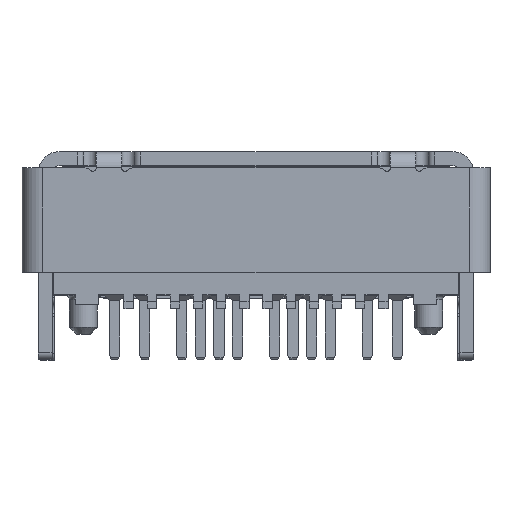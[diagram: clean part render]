
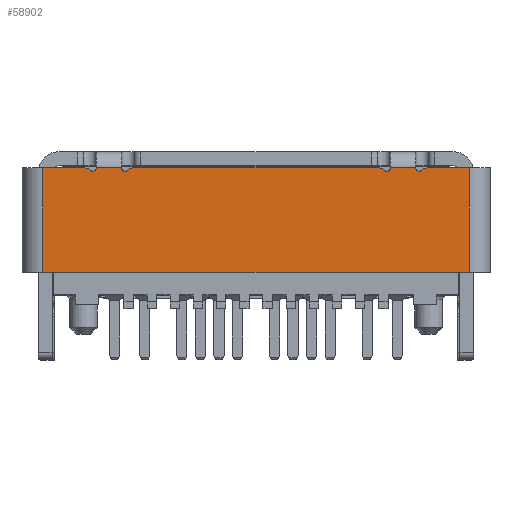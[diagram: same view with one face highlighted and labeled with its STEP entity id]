
A CAD part, top view. The second image highlights one B-rep face of the part: STEP entity #58902.
In plain terms, the highlighted planar face has unit normal (0, 0, 1).
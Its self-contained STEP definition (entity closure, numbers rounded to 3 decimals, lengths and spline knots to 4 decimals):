
#18443=DIRECTION('',(0.,-1.,0.));
#18444=VECTOR('',#18443,2.25);
#18445=CARTESIAN_POINT('',(-4.6,1.23,3.525));
#18446=LINE('',#18445,#18444);
#18451=DIRECTION('',(-1.,0.,0.));
#18452=VECTOR('',#18451,0.9073);
#18453=CARTESIAN_POINT('',(-3.6927,1.23,3.525));
#18454=LINE('',#18453,#18452);
#18455=CARTESIAN_POINT('',(-3.6927,1.08,3.525));
#18456=DIRECTION('',(0.,0.,1.));
#18457=DIRECTION('',(0.745,0.667,0.));
#18458=AXIS2_PLACEMENT_3D('',#18455,#18456,#18457);
#18460=CARTESIAN_POINT('',(-3.525,1.23,3.525));
#18461=DIRECTION('',(0.,0.,-1.));
#18462=DIRECTION('',(1.,0.,0.));
#18463=AXIS2_PLACEMENT_3D('',#18460,#18461,#18462);
#18465=CARTESIAN_POINT('',(-2.825,1.23,3.525));
#18466=DIRECTION('',(0.,0.,-1.));
#18467=DIRECTION('',(0.745,-0.667,0.));
#18468=AXIS2_PLACEMENT_3D('',#18465,#18466,#18467);
#18470=CARTESIAN_POINT('',(-2.6573,1.08,3.525));
#18471=DIRECTION('',(0.,0.,1.));
#18472=DIRECTION('',(0.,1.,0.));
#18473=AXIS2_PLACEMENT_3D('',#18470,#18471,#18472);
#18475=CARTESIAN_POINT('',(2.6573,1.08,3.525));
#18476=DIRECTION('',(0.,0.,1.));
#18477=DIRECTION('',(0.745,0.667,0.));
#18478=AXIS2_PLACEMENT_3D('',#18475,#18476,#18477);
#18480=CARTESIAN_POINT('',(2.825,1.23,3.525));
#18481=DIRECTION('',(0.,0.,-1.));
#18482=DIRECTION('',(1.,0.,0.));
#18483=AXIS2_PLACEMENT_3D('',#18480,#18481,#18482);
#18485=CARTESIAN_POINT('',(3.525,1.23,3.525));
#18486=DIRECTION('',(0.,0.,-1.));
#18487=DIRECTION('',(0.745,-0.667,0.));
#18488=AXIS2_PLACEMENT_3D('',#18485,#18486,#18487);
#18490=CARTESIAN_POINT('',(3.6927,1.08,3.525));
#18491=DIRECTION('',(0.,0.,1.));
#18492=DIRECTION('',(0.,1.,0.));
#18493=AXIS2_PLACEMENT_3D('',#18490,#18491,#18492);
#18495=DIRECTION('',(0.,1.,0.));
#18496=VECTOR('',#18495,2.25);
#18497=CARTESIAN_POINT('',(4.6,-1.02,3.525));
#18498=LINE('',#18497,#18496);
#18535=DIRECTION('',(-1.,0.,0.));
#18536=VECTOR('',#18535,9.2);
#18537=CARTESIAN_POINT('',(4.6,-1.02,3.525));
#18538=LINE('',#18537,#18536);
#18578=DIRECTION('',(1.,0.,0.));
#18579=VECTOR('',#18578,0.9073);
#18580=CARTESIAN_POINT('',(3.6927,1.23,3.525));
#18581=LINE('',#18580,#18579);
#19001=DIRECTION('',(1.,0.,0.));
#19002=VECTOR('',#19001,5.3146);
#19003=CARTESIAN_POINT('',(-2.6573,1.23,3.525));
#19004=LINE('',#19003,#19002);
#19017=DIRECTION('',(-1.,0.,0.));
#19018=VECTOR('',#19017,0.55);
#19019=CARTESIAN_POINT('',(-2.9,1.23,3.525));
#19020=LINE('',#19019,#19018);
#19057=DIRECTION('',(-1.,0.,0.));
#19058=VECTOR('',#19057,0.55);
#19059=CARTESIAN_POINT('',(3.45,1.23,3.525));
#19060=LINE('',#19059,#19058);
#21606=CARTESIAN_POINT('',(-3.45,1.23,3.525));
#21608=VERTEX_POINT('',#21606);
#21612=CARTESIAN_POINT('',(-3.5809,1.18,3.525));
#21613=VERTEX_POINT('',#21612);
#21647=CARTESIAN_POINT('',(-4.6,1.23,3.525));
#21649=VERTEX_POINT('',#21647);
#21656=CARTESIAN_POINT('',(-3.6927,1.23,3.525));
#21657=VERTEX_POINT('',#21656);
#21658=CARTESIAN_POINT('',(-4.6,-1.02,3.525));
#21659=VERTEX_POINT('',#21658);
#21662=CARTESIAN_POINT('',(4.6,-1.02,3.525));
#21663=CARTESIAN_POINT('',(4.6,1.23,3.525));
#21664=VERTEX_POINT('',#21662);
#21665=VERTEX_POINT('',#21663);
#21666=CARTESIAN_POINT('',(-2.9,1.23,3.525));
#21667=VERTEX_POINT('',#21666);
#21668=CARTESIAN_POINT('',(-2.7691,1.18,3.525));
#21669=VERTEX_POINT('',#21668);
#21670=CARTESIAN_POINT('',(-2.6573,1.23,3.525));
#21671=VERTEX_POINT('',#21670);
#21672=CARTESIAN_POINT('',(2.6573,1.23,3.525));
#21673=VERTEX_POINT('',#21672);
#21674=CARTESIAN_POINT('',(2.7691,1.18,3.525));
#21675=VERTEX_POINT('',#21674);
#21676=CARTESIAN_POINT('',(2.9,1.23,3.525));
#21677=VERTEX_POINT('',#21676);
#21678=CARTESIAN_POINT('',(3.45,1.23,3.525));
#21679=VERTEX_POINT('',#21678);
#21680=CARTESIAN_POINT('',(3.5809,1.18,3.525));
#21681=VERTEX_POINT('',#21680);
#21682=CARTESIAN_POINT('',(3.6927,1.23,3.525));
#21683=VERTEX_POINT('',#21682);
#58866=CARTESIAN_POINT('',(0.,0.105,3.525));
#58867=DIRECTION('',(0.,0.,1.));
#58868=DIRECTION('',(1.,0.,0.));
#58869=AXIS2_PLACEMENT_3D('',#58866,#58867,#58868);
#58870=PLANE('',#58869);
#58872=ORIENTED_EDGE('',*,*,#58871,.F.);
#58874=ORIENTED_EDGE('',*,*,#58873,.T.);
#58875=ORIENTED_EDGE('',*,*,#58850,.F.);
#58876=ORIENTED_EDGE('',*,*,#58832,.F.);
#58878=ORIENTED_EDGE('',*,*,#58877,.F.);
#58880=ORIENTED_EDGE('',*,*,#58879,.F.);
#58882=ORIENTED_EDGE('',*,*,#58881,.F.);
#58884=ORIENTED_EDGE('',*,*,#58883,.F.);
#58886=ORIENTED_EDGE('',*,*,#58885,.F.);
#58888=ORIENTED_EDGE('',*,*,#58887,.T.);
#58890=ORIENTED_EDGE('',*,*,#58889,.F.);
#58891=ORIENTED_EDGE('',*,*,#58732,.F.);
#58893=ORIENTED_EDGE('',*,*,#58892,.F.);
#58895=ORIENTED_EDGE('',*,*,#58894,.F.);
#58897=ORIENTED_EDGE('',*,*,#58896,.F.);
#58899=ORIENTED_EDGE('',*,*,#58898,.T.);
#58900=EDGE_LOOP('',(#58872,#58874,#58875,#58876,#58878,#58880,#58882,#58884,
#58886,#58888,#58890,#58891,#58893,#58895,#58897,#58899));
#58901=FACE_OUTER_BOUND('',#58900,.F.);
#58902=ADVANCED_FACE('',(#58901),#58870,.T.);
#18459=CIRCLE('',#18458,0.15);
#18464=CIRCLE('',#18463,0.075);
#18469=CIRCLE('',#18468,0.075);
#18474=CIRCLE('',#18473,0.15);
#18479=CIRCLE('',#18478,0.15);
#18484=CIRCLE('',#18483,0.075);
#18489=CIRCLE('',#18488,0.075);
#18494=CIRCLE('',#18493,0.15);
#58732=EDGE_CURVE('',#21677,#21675,#18484,.T.);
#58832=EDGE_CURVE('',#21657,#21649,#18454,.T.);
#58850=EDGE_CURVE('',#21649,#21659,#18446,.T.);
#58871=EDGE_CURVE('',#21664,#21665,#18498,.T.);
#58873=EDGE_CURVE('',#21664,#21659,#18538,.T.);
#58877=EDGE_CURVE('',#21613,#21657,#18459,.T.);
#58879=EDGE_CURVE('',#21608,#21613,#18464,.T.);
#58881=EDGE_CURVE('',#21667,#21608,#19020,.T.);
#58883=EDGE_CURVE('',#21669,#21667,#18469,.T.);
#58885=EDGE_CURVE('',#21671,#21669,#18474,.T.);
#58887=EDGE_CURVE('',#21671,#21673,#19004,.T.);
#58889=EDGE_CURVE('',#21675,#21673,#18479,.T.);
#58892=EDGE_CURVE('',#21679,#21677,#19060,.T.);
#58894=EDGE_CURVE('',#21681,#21679,#18489,.T.);
#58896=EDGE_CURVE('',#21683,#21681,#18494,.T.);
#58898=EDGE_CURVE('',#21683,#21665,#18581,.T.);
